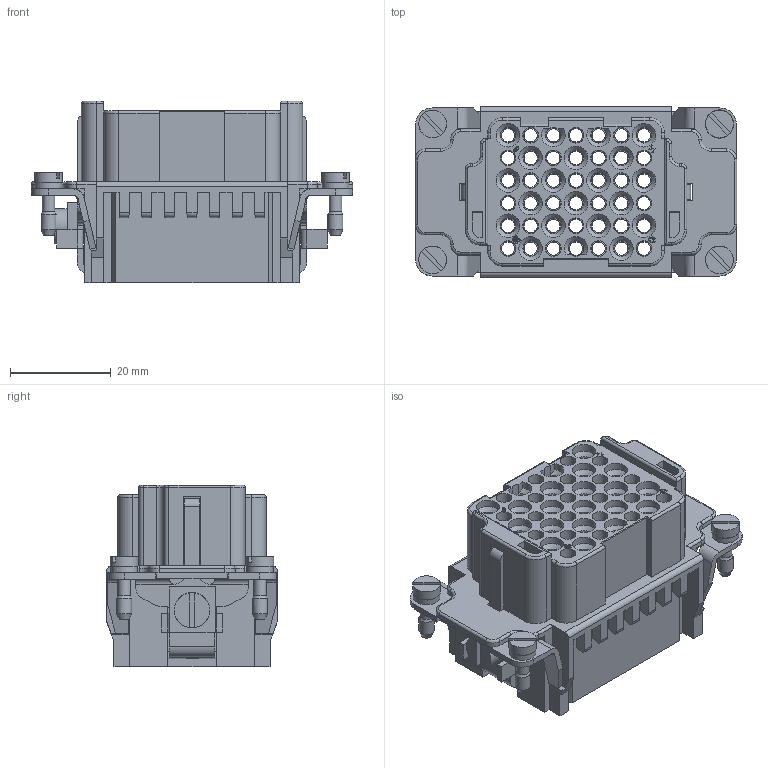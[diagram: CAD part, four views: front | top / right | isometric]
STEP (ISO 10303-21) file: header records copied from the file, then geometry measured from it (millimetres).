
FILE_DESCRIPTION(/* description */ (''),/* implementation_level */ '2;1');
FILE_NAME(/* name */ '09160423101.stp',/* time_stamp */ '2023-06-21T16:47:10+08:00',/* author */ (''),/* organization */ (''),/* preprocessor_version */ 'ST-DEVELOPER v16.7',/* originating_system */ 'SIEMENS PLM Software NX 12.0',/* authorisation */ '');
FILE_SCHEMA (('AUTOMOTIVE_DESIGN { 1 0 10303 214 3 1 1 1 }'));
Length unit declared in the file: millimetre
Products named in the file (1): 09160423101_100095191MOD000F_stp
Bounding box: 63.85 x 33.85 x 36.1 mm (x, y, z)
Volume: 27299.7 mm3; surface area: 30268.4 mm2
Topology: 1 solids, 1 shells, 1191 faces, 3160 edges, 2048 vertices
Faces by surface type: plane 579, cylinder 264, extrusion 210, cone 114, torus 22, bspline 2
Full cylindrical faces by diameter (mm): 2.13 x2, 2.285 x2, 2.5 x4, 2.62 x42, 3 x4, 3.242 x1, 3.9 x42, 4 x1, 4.5 x2, 4.7 x18, 5.3 x3, 5.5 x4, 5.63 x1, 7 x1
Entity records: 38604 total; most frequent: CARTESIAN_POINT 8430, ORIENTED_EDGE 5766, DIRECTION 5266, EDGE_CURVE 2883, VERTEX_POINT 2008, VECTOR 1960, LINE 1750, AXIS2_PLACEMENT_3D 1653
